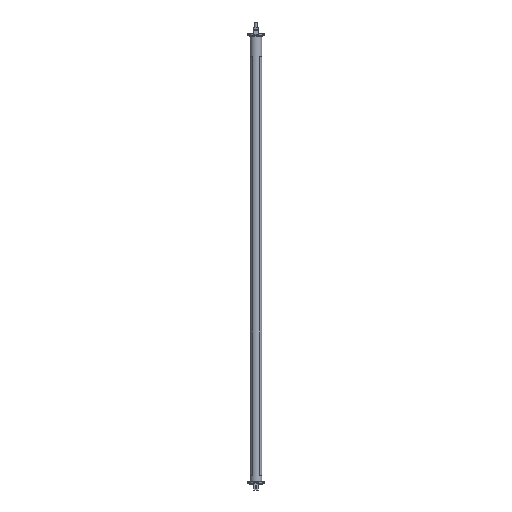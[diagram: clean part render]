
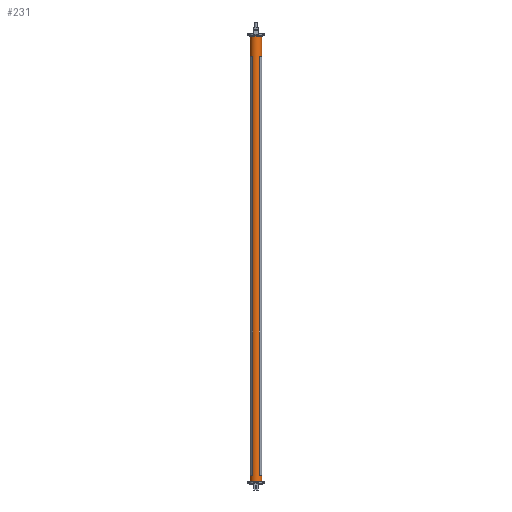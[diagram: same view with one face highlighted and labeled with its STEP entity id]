
A CAD part, left-side view. The second image highlights one B-rep face of the part: STEP entity #231.
In plain terms, the highlighted cylindrical face has radius 25 mm (diameter 50 mm), a full revolution.
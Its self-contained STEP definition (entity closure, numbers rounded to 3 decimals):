
#231 = ADVANCED_FACE( '', ( #558, #559, #560, #561 ), #562, .T. );
#558 = FACE_OUTER_BOUND( '', #1006, .T. );
#559 = FACE_BOUND( '', #1007, .T. );
#560 = FACE_BOUND( '', #1008, .T. );
#561 = FACE_OUTER_BOUND( '', #1009, .T. );
#562 = CYLINDRICAL_SURFACE( '', #1010, 25. );
#1006 = EDGE_LOOP( '', ( #1878 ) );
#1007 = EDGE_LOOP( '', ( #1879, #1880, #1881, #1882 ) );
#1008 = EDGE_LOOP( '', ( #1883, #1884, #1885, #1886 ) );
#1009 = EDGE_LOOP( '', ( #1887 ) );
#1010 = AXIS2_PLACEMENT_3D( '', #1888, #1889, #1890 );
#1878 = ORIENTED_EDGE( '', *, *, #2895, .F. );
#1879 = ORIENTED_EDGE( '', *, *, #2896, .F. );
#1880 = ORIENTED_EDGE( '', *, *, #2897, .T. );
#1881 = ORIENTED_EDGE( '', *, *, #2898, .F. );
#1882 = ORIENTED_EDGE( '', *, *, #2899, .F. );
#1883 = ORIENTED_EDGE( '', *, *, #2900, .F. );
#1884 = ORIENTED_EDGE( '', *, *, #2646, .T. );
#1885 = ORIENTED_EDGE( '', *, *, #2901, .F. );
#1886 = ORIENTED_EDGE( '', *, *, #2637, .F. );
#1887 = ORIENTED_EDGE( '', *, *, #2902, .T. );
#1888 = CARTESIAN_POINT( '', ( 0., -47.62, 0. ) );
#1889 = DIRECTION( '', ( 0., 1., 0. ) );
#1890 = DIRECTION( '', ( 0., 0., -1. ) );
#2637 = EDGE_CURVE( '', #3061, #3062, #3063, .T. );
#2646 = EDGE_CURVE( '', #3074, #3076, #3078, .T. );
#2895 = EDGE_CURVE( '', #3529, #3529, #3530, .T. );
#2896 = EDGE_CURVE( '', #3531, #3532, #3533, .T. );
#2897 = EDGE_CURVE( '', #3531, #3534, #3535, .T. );
#2898 = EDGE_CURVE( '', #3536, #3534, #3537, .F. );
#2899 = EDGE_CURVE( '', #3532, #3536, #3538, .T. );
#2900 = EDGE_CURVE( '', #3074, #3061, #3539, .T. );
#2901 = EDGE_CURVE( '', #3062, #3076, #3540, .F. );
#2902 = EDGE_CURVE( '', #3541, #3541, #3542, .T. );
#3061 = VERTEX_POINT( '', #3785 );
#3062 = VERTEX_POINT( '', #3786 );
#3063 = CIRCLE( '', #3787, 25. );
#3074 = VERTEX_POINT( '', #3802 );
#3076 = VERTEX_POINT( '', #3805 );
#3078 = CIRCLE( '', #3808, 25. );
#3529 = VERTEX_POINT( '', #4395 );
#3530 = CIRCLE( '', #4396, 25. );
#3531 = VERTEX_POINT( '', #4397 );
#3532 = VERTEX_POINT( '', #4398 );
#3533 = LINE( '', #4399, #4400 );
#3534 = VERTEX_POINT( '', #4401 );
#3535 = CIRCLE( '', #4402, 25. );
#3536 = VERTEX_POINT( '', #4403 );
#3537 = LINE( '', #4404, #4405 );
#3538 = CIRCLE( '', #4406, 25. );
#3539 = LINE( '', #4407, #4408 );
#3540 = LINE( '', #4409, #4410 );
#3541 = VERTEX_POINT( '', #4411 );
#3542 = CIRCLE( '', #4412, 25. );
#3785 = CARTESIAN_POINT( '', ( -15., 100., -20. ) );
#3786 = CARTESIAN_POINT( '', ( -15., 100., 20. ) );
#3787 = AXIS2_PLACEMENT_3D( '', #4789, #4790, #4791 );
#3802 = CARTESIAN_POINT( '', ( -15., 1900., -20. ) );
#3805 = CARTESIAN_POINT( '', ( -15., 1900., 20. ) );
#3808 = AXIS2_PLACEMENT_3D( '', #4804, #4805, #4806 );
#4395 = CARTESIAN_POINT( '', ( 0., 14., -25. ) );
#4396 = AXIS2_PLACEMENT_3D( '', #5279, #5280, #5281 );
#4397 = CARTESIAN_POINT( '', ( 15., 1900., 20. ) );
#4398 = CARTESIAN_POINT( '', ( 15., 100., 20. ) );
#4399 = CARTESIAN_POINT( '', ( 15., -47.62, 20. ) );
#4400 = VECTOR( '', #5282, 1000. );
#4401 = CARTESIAN_POINT( '', ( 15., 1900., -20. ) );
#4402 = AXIS2_PLACEMENT_3D( '', #5283, #5284, #5285 );
#4403 = CARTESIAN_POINT( '', ( 15., 100., -20. ) );
#4404 = CARTESIAN_POINT( '', ( 15., -47.62, -20. ) );
#4405 = VECTOR( '', #5286, 1000. );
#4406 = AXIS2_PLACEMENT_3D( '', #5287, #5288, #5289 );
#4407 = CARTESIAN_POINT( '', ( -15., -47.62, -20. ) );
#4408 = VECTOR( '', #5290, 1000. );
#4409 = CARTESIAN_POINT( '', ( -15., -47.62, 20. ) );
#4410 = VECTOR( '', #5291, 1000. );
#4411 = CARTESIAN_POINT( '', ( 0., 1925., -25. ) );
#4412 = AXIS2_PLACEMENT_3D( '', #5292, #5293, #5294 );
#4789 = CARTESIAN_POINT( '', ( 0., 100., 0. ) );
#4790 = DIRECTION( '', ( 0., 1., 0. ) );
#4791 = DIRECTION( '', ( 0., 0., 1. ) );
#4804 = CARTESIAN_POINT( '', ( 0., 1900., 0. ) );
#4805 = DIRECTION( '', ( 0., 1., 0. ) );
#4806 = DIRECTION( '', ( 0., 0., 1. ) );
#5279 = CARTESIAN_POINT( '', ( 0., 14., 0. ) );
#5280 = DIRECTION( '', ( 0., -1., 0. ) );
#5281 = DIRECTION( '', ( 0., 0., -1. ) );
#5282 = DIRECTION( '', ( 0., -1., 0. ) );
#5283 = CARTESIAN_POINT( '', ( 0., 1900., 0. ) );
#5284 = DIRECTION( '', ( 0., 1., 0. ) );
#5285 = DIRECTION( '', ( 0., 0., 1. ) );
#5286 = DIRECTION( '', ( 0., -1., 0. ) );
#5287 = CARTESIAN_POINT( '', ( 0., 100., 0. ) );
#5288 = DIRECTION( '', ( 0., 1., 0. ) );
#5289 = DIRECTION( '', ( 0., 0., 1. ) );
#5290 = DIRECTION( '', ( 0., -1., 0. ) );
#5291 = DIRECTION( '', ( 0., -1., 0. ) );
#5292 = CARTESIAN_POINT( '', ( 0., 1925., 0. ) );
#5293 = DIRECTION( '', ( 0., -1., 0. ) );
#5294 = DIRECTION( '', ( 0., 0., -1. ) );
